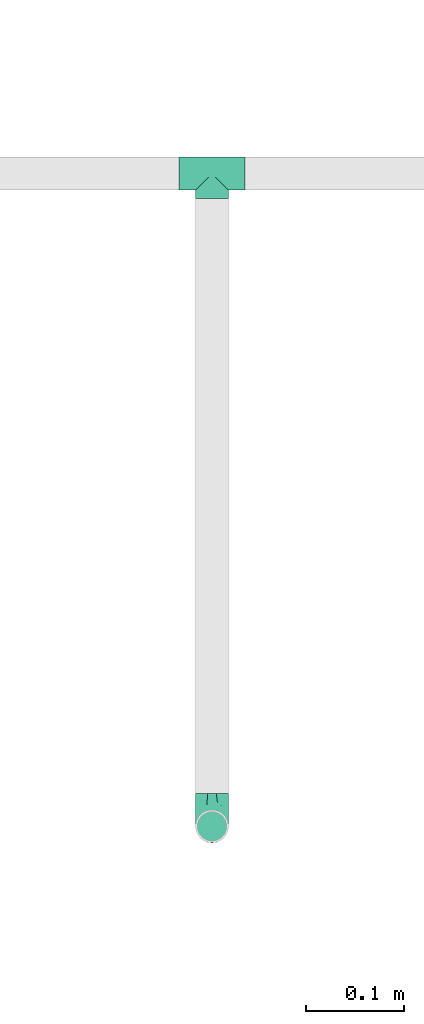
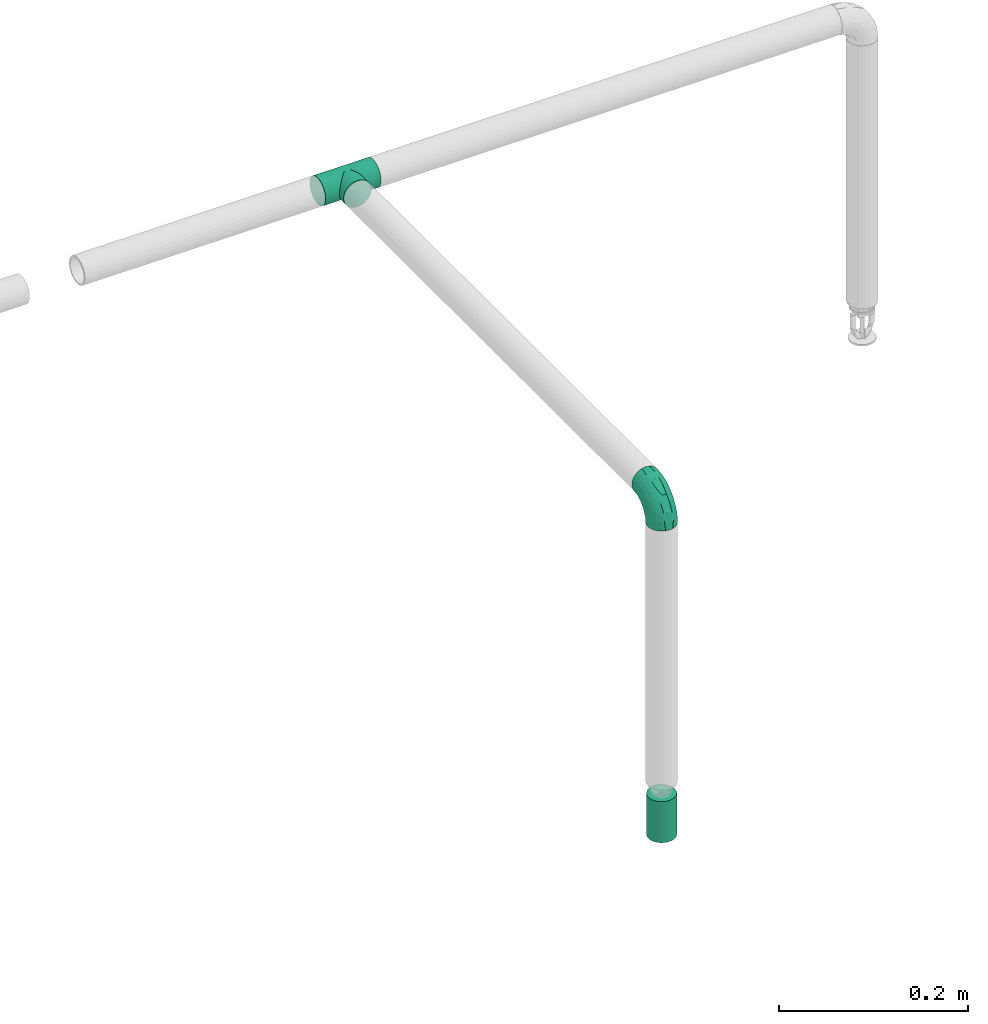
# One storey, part 8 of 17: 2 flow fittings, 1 flow terminal.
"""IFC2X3 building model written with IfcOpenShell, lengths in millimetres."""

from ifc_helpers import new_model, entity, si_unit, converted_unit, derived_unit, direction, frame, origin_with_axes, place, context, subcontext, project, spatial, open_shell, surface_model, source, transform, mapped, type_object, element, save


model = new_model("IFC2X3")

# Units and contexts
model_context = context("Model", 3, precision=0.01, world=frame((0.0, 4.29681676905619e-09, 0.0)), true_north=direction((4.01073788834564e-13, 1.0)))
plan_context = context("Plan", 3, precision=0.01, world=frame((0.0, 4.29681676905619e-09, 0.0)), true_north=direction((4.01073788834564e-13, 1.0)))
body_context = subcontext(model_context, "Body", "Model", "MODEL_VIEW")
ifc_project = project(units=[converted_unit("PLANEANGLEUNIT", "DEGREE", entity("IfcPositiveLengthMeasure", 0.0174532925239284), si_unit("PLANEANGLEUNIT", "RADIAN"), dimensions=[0, 0, 0, 0, 0, 0, 0]), si_unit("AREAUNIT", "SQUARE_METRE"), si_unit("LENGTHUNIT", "METRE", prefix="MILLI"), si_unit("MASSUNIT", "GRAM", prefix="KILO"), si_unit("POWERUNIT", "WATT"), si_unit("PRESSUREUNIT", "PASCAL", prefix="KILO"), si_unit("FORCEUNIT", "NEWTON", prefix="KILO"), si_unit("ELECTRICVOLTAGEUNIT", "VOLT"), si_unit("ELECTRICCURRENTUNIT", "AMPERE"), si_unit("THERMODYNAMICTEMPERATUREUNIT", "DEGREE_CELSIUS"), si_unit("TIMEUNIT", "SECOND"), si_unit("VOLUMEUNIT", "CUBIC_METRE"), derived_unit("LINEARVELOCITYUNIT", [(si_unit("LENGTHUNIT", "METRE"), 1), (si_unit("TIMEUNIT", "SECOND"), -1)]), derived_unit("VOLUMETRICFLOWRATEUNIT", [(si_unit("VOLUMEUNIT", "CUBIC_METRE"), 1), (si_unit("TIMEUNIT", "SECOND"), -1)]), derived_unit("THERMALTRANSMITTANCEUNIT", [(si_unit("POWERUNIT", "WATT"), 1), (si_unit("THERMODYNAMICTEMPERATUREUNIT", "KELVIN"), -1), (si_unit("AREAUNIT", "SQUARE_METRE"), -1)]), derived_unit("SOUNDPRESSUREUNIT", [(si_unit("PRESSUREUNIT", "PASCAL"), 1)])], contexts=[model_context, plan_context])

# Site, building, storey
site_placement = place(None, frame((0.0, -4.29681676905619e-09, 0.0), z_axis=(0.0, 0.0, 1.0), x_axis=(1.0, 0.0, 0.0)))
site = spatial("IfcSite", under=ifc_project, at=site_placement, CompositionType="ELEMENT")
building_placement = place(site_placement, frame((0.0, 4.29681676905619e-09, 0.0), z_axis=(0.0, 0.0, 1.0), x_axis=(1.0, 0.0, 0.0)))
building = spatial("IfcBuilding", under=site, at=building_placement, Name="mc-building", CompositionType="ELEMENT")
storey_placement = place(building_placement, frame((0.0, 0.0, 204000.0), z_axis=(0.0, 0.0, 1.0), x_axis=(1.0, 0.0, 0.0)))
storey = spatial("IfcBuildingStorey", under=building, at=storey_placement, Name="Nivå D", CompositionType="ELEMENT", Elevation=204000.0)

# Flow fittings
pipe_fitting_type_1 = type_object("IfcPipeFittingType", Name="magi_pipe_fe_tee_centric_90_NOR", PredefinedType="JUNCTION")
shared_shape_1 = source(origin_with_axes(), body_context, "Body", "SurfaceModel", [
    surface_model("IfcShellBasedSurfaceModel", [(-33.8, 4.37404, -16.32415), (-33.8, 0.0, -16.9), (-33.8, 16.32415, -4.37404), (-33.8, 8.45, -14.63583), (-33.8, 11.9501, -11.9501), (-33.8, 14.63583, -8.45), (-33.8, -16.9, 0.0), (-33.8, -11.9501, -11.9501), (-33.8, -14.63583, -8.45), (-33.8, -8.45, -14.63583), (-33.8, -4.37404, -16.32415), (-33.8, -16.32415, -4.37404), (-33.8, 14.63583, 8.45), (-33.8, 16.32415, 4.37404), (-33.8, -8.45, 14.63583), (-33.8, 8.45, 14.63583), (-33.8, 11.9501, 11.9501), (-33.8, 4.37404, 16.32415), (-33.8, 0.0, 16.9), (-33.8, -11.9501, 11.9501), (-33.8, -14.63583, 8.45), (-33.8, -16.32415, 4.37404), (-33.8, -4.37404, 16.32415), (-33.8, 16.9, 0.0), (33.8, 4.37404, -16.32415), (33.8, -16.9, 0.0), (33.8, 0.0, -16.9), (33.8, 14.63583, -8.45), (33.8, 8.45, -14.63583), (33.8, 16.32415, -4.37404), (33.8, 11.9501, -11.9501), (33.8, -16.32415, 4.37404), (33.8, -8.45, -14.63583), (33.8, -4.37404, -16.32415), (33.8, -11.9501, -11.9501), (33.8, -14.63583, -8.45), (33.8, -16.32415, -4.37404), (33.8, 16.32415, 4.37404), (33.8, 8.45, 14.63583), (33.8, 14.63583, 8.45), (33.8, 11.9501, 11.9501), (33.8, -8.45, 14.63583), (33.8, 4.37404, 16.32415), (33.8, -14.63583, 8.45), (33.8, -11.9501, 11.9501), (33.8, 0.0, 16.9), (33.8, -4.37404, 16.32415), (33.8, 16.9, 0.0), (16.28698, -16.28698, 4.51047), (16.9, -16.9, 0.0), (14.62704, -14.62704, 8.4652), (9.47213, -9.47213, 13.99602), (12.26343, -12.26343, 11.62834), (-16.9, -16.9, 0.0), (-16.28698, -16.28698, 4.51047), (-14.62704, -14.62704, 8.4652), (-12.26343, -12.26343, 11.62834), (-9.47213, -9.47213, 13.99602), (-6.42894, -6.42894, 15.62942), (6.42894, -6.42894, 15.62942), (3.24522, -3.24522, 16.58549), (0.0, 0.0, 16.9), (-3.24522, -3.24522, 16.58549), (3.24522, -3.24522, -16.58549), (0.0, 0.0, -16.9), (-3.24522, -3.24522, -16.58549), (-6.42894, -6.42894, -15.62942), (6.42894, -6.42894, -15.62942), (9.47213, -9.47213, -13.99602), (12.26343, -12.26343, -11.62834), (14.62704, -14.62704, -8.4652), (16.28698, -16.28698, -4.51047), (-9.47213, -9.47213, -13.99602), (-12.26343, -12.26343, -11.62834), (-16.28698, -16.28698, -4.51047), (-14.62704, -14.62704, -8.4652), (4.37404, -25.35, -16.32415), (-16.9, -25.35, 0.0), (0.0, -25.35, -16.9), (14.63583, -25.35, -8.45), (8.45, -25.35, -14.63583), (16.32415, -25.35, -4.37404), (11.9501, -25.35, -11.9501), (-11.9501, -25.35, -11.9501), (-8.45, -25.35, -14.63583), (-4.37404, -25.35, -16.32415), (-14.63583, -25.35, -8.45), (-16.32415, -25.35, -4.37404), (16.9, -25.35, 0.0), (8.45, -25.35, 14.63583), (16.32415, -25.35, 4.37404), (14.63583, -25.35, 8.45), (-8.45, -25.35, 14.63583), (11.9501, -25.35, 11.9501), (4.37404, -25.35, 16.32415), (-16.32415, -25.35, 4.37404), (-11.9501, -25.35, 11.9501), (-14.63583, -25.35, 8.45), (0.0, -25.35, 16.9), (-4.37404, -25.35, 16.32415)], [open_shell([[[0, 1, 2]], [[3, 0, 4]], [[0, 2, 5]], [[4, 0, 5]], [[6, 2, 1]], [[7, 8, 9]], [[1, 10, 9]], [[11, 6, 8]], [[1, 9, 8]], [[1, 8, 6]], [[6, 12, 2]], [[12, 13, 2]], [[14, 12, 6]], [[12, 14, 15]], [[16, 12, 15]], [[17, 15, 18]], [[19, 14, 20]], [[21, 20, 14]], [[22, 18, 14]], [[14, 6, 21]], [[14, 18, 15]], [[23, 2, 13]], [[24, 25, 26]], [[27, 24, 28]], [[27, 29, 24]], [[27, 28, 30]], [[31, 25, 24]], [[26, 32, 33]], [[26, 34, 32]], [[35, 25, 36]], [[35, 34, 26]], [[25, 35, 26]], [[24, 29, 31]], [[29, 37, 38]], [[38, 37, 39]], [[38, 31, 29]], [[38, 39, 40]], [[41, 38, 42]], [[43, 41, 44]], [[41, 43, 31]], [[41, 45, 46]], [[41, 31, 38]], [[42, 45, 41]], [[29, 47, 37]], [[31, 43, 48]], [[25, 31, 49]], [[49, 31, 48]], [[43, 50, 48]], [[44, 41, 51]], [[50, 43, 52]], [[51, 52, 44]], [[52, 43, 44]], [[53, 54, 21]], [[53, 21, 6]], [[21, 54, 20]], [[54, 55, 20]], [[56, 57, 19]], [[19, 20, 56]], [[19, 57, 14]], [[56, 20, 55]], [[14, 57, 58]], [[51, 41, 59]], [[60, 45, 61]], [[59, 46, 60]], [[46, 59, 41]], [[60, 46, 45]], [[61, 45, 42]], [[39, 37, 13]], [[16, 38, 40]], [[12, 40, 39]], [[42, 38, 15]], [[23, 37, 47]], [[62, 61, 18]], [[62, 22, 58]], [[22, 62, 18]], [[58, 22, 14]], [[61, 17, 18]], [[42, 17, 61]], [[15, 17, 42]], [[15, 38, 16]], [[12, 16, 40]], [[13, 12, 39]], [[37, 23, 13]], [[5, 27, 30]], [[23, 47, 29]], [[30, 28, 3]], [[27, 2, 29]], [[26, 33, 63]], [[26, 64, 24]], [[64, 26, 63]], [[28, 24, 0]], [[64, 0, 24]], [[4, 30, 3]], [[2, 27, 5]], [[5, 30, 4]], [[2, 23, 29]], [[65, 66, 10]], [[1, 0, 64]], [[1, 65, 10]], [[66, 9, 10]], [[0, 3, 28]], [[1, 64, 65]], [[63, 33, 67]], [[32, 34, 68]], [[69, 68, 34]], [[35, 70, 69]], [[69, 34, 35]], [[32, 68, 67]], [[36, 25, 49]], [[36, 71, 35]], [[71, 36, 49]], [[35, 71, 70]], [[72, 9, 66]], [[72, 7, 9]], [[7, 72, 73]], [[7, 73, 8]], [[74, 53, 11]], [[75, 74, 8]], [[74, 11, 8]], [[11, 53, 6]], [[75, 8, 73]], [[32, 67, 33]], [[76, 77, 78]], [[79, 76, 80]], [[79, 81, 76]], [[79, 80, 82]], [[77, 76, 81]], [[78, 83, 84]], [[84, 85, 78]], [[86, 77, 87]], [[83, 78, 86]], [[77, 86, 78]], [[81, 88, 77]], [[89, 88, 90]], [[89, 90, 91]], [[92, 77, 89]], [[89, 91, 93]], [[92, 89, 94]], [[95, 96, 97]], [[96, 95, 92]], [[92, 98, 99]], [[95, 77, 92]], [[94, 98, 92]], [[89, 77, 88]], [[77, 95, 53]], [[54, 53, 95]], [[97, 96, 56]], [[96, 92, 57]], [[95, 97, 54]], [[58, 92, 99]], [[55, 54, 97]], [[56, 55, 97]], [[58, 57, 92]], [[98, 61, 62]], [[58, 99, 62]], [[56, 96, 57]], [[62, 99, 98]], [[94, 60, 98]], [[89, 59, 94]], [[91, 90, 48]], [[52, 93, 91]], [[93, 51, 89]], [[49, 90, 88]], [[59, 60, 94]], [[51, 59, 89]], [[49, 48, 90]], [[50, 52, 91]], [[48, 50, 91]], [[51, 93, 52]], [[98, 60, 61]], [[88, 81, 49]], [[71, 49, 81]], [[79, 82, 69]], [[82, 80, 68]], [[81, 79, 71]], [[67, 80, 76]], [[70, 71, 79]], [[69, 70, 79]], [[67, 68, 80]], [[78, 64, 63]], [[67, 76, 63]], [[69, 82, 68]], [[63, 76, 78]], [[85, 65, 78]], [[84, 66, 85]], [[86, 87, 74]], [[86, 73, 83]], [[72, 84, 83]], [[53, 87, 77]], [[66, 65, 85]], [[72, 66, 84]], [[53, 74, 87]], [[75, 73, 86]], [[74, 75, 86]], [[72, 83, 73]], [[78, 65, 64]]])]),
])
flow_fitting_1_placement = place(storey_placement, frame((597774.5, 402317.53152, 2780.0), z_axis=(0.0, 0.0, 1.0), x_axis=(1.0, 0.0, 0.0)))
element("IfcFlowFitting", 1, at=flow_fitting_1_placement, inside=storey, type_object=pipe_fitting_type_1, Name="magi_pipe_fe_tee_centric_90_NOR", context=body_context, shape_type="MappedRepresentation", body=[
    mapped(shared_shape_1, transform((0.0, 0.0, 0.0), scale=1.0)),
])
pipe_fitting_type_2 = type_object("IfcPipeFittingType", Name="magi_pipe_fe_elbow_short_001", PredefinedType="BEND")
shared_shape_2 = source(origin_with_axes(), body_context, "Body", "SurfaceModel", [
    surface_model("IfcShellBasedSurfaceModel", [(-33.8, 8.45, -14.63583), (-33.8, 4.37404, -16.32415), (-33.8, 11.9501, -11.9501), (-33.8, -11.9501, -11.9501), (-33.8, -14.63583, -8.45), (-33.8, -8.45, -14.63583), (-33.8, 0.0, -16.9), (-33.8, -4.37404, -16.32415), (-33.8, -4.37404, 16.32415), (-33.8, 0.0, 16.9), (-33.8, -8.45, 14.63583), (-33.8, 16.32415, -4.37404), (-33.8, 14.63583, -8.45), (-33.8, -16.32415, -4.37404), (-33.8, -16.9, 0.0), (-33.8, -16.32415, 4.37404), (-33.8, 11.9501, 11.9501), (-33.8, 14.63583, 8.45), (-33.8, 16.32415, 4.37404), (-33.8, 4.37404, 16.32415), (-33.8, 8.45, 14.63583), (-33.8, -14.63583, 8.45), (-33.8, -11.9501, 11.9501), (-33.8, 16.9, 0.0), (-11.9501, 33.8, -11.9501), (0.0, 33.8, -16.9), (-4.37404, 33.8, -16.32415), (-8.45, 33.8, -14.63583), (-14.63583, 33.8, -8.45), (-16.32415, 33.8, -4.37404), (14.63583, 33.8, -8.45), (8.45, 33.8, 14.63583), (16.32415, 33.8, -4.37404), (8.45, 33.8, -14.63583), (11.9501, 33.8, -11.9501), (4.37404, 33.8, -16.32415), (16.32415, 33.8, 4.37404), (16.9, 33.8, 0.0), (-11.9501, 33.8, 11.9501), (-16.32415, 33.8, 4.37404), (-14.63583, 33.8, 8.45), (-8.45, 33.8, 14.63583), (-4.37404, 33.8, 16.32415), (11.9501, 33.8, 11.9501), (14.63583, 33.8, 8.45), (0.0, 33.8, 16.9), (4.37404, 33.8, 16.32415), (-16.9, 33.8, 0.0), (-24.79389, -13.12945, 9.48721), (-22.19287, -9.75018, 12.59315), (-24.09897, -14.97035, 0.0), (-14.93934, -10.76256, 8.5297), (-22.46095, -14.75051, 5.27077), (14.75051, 22.46094, 5.27077), (11.9251, 13.23888, 4.33236), (13.04069, 14.39795, 0.0), (7.71387, 13.68847, 11.55891), (9.75018, 22.19287, 12.59315), (4.10169, 13.0571, 14.04018), (-24.84007, -6.39063, 15.2048), (-25.81779, -2.23879, 16.61097), (-23.66549, 2.59054, 16.87119), (-26.50418, 14.06512, 11.08152), (-24.21253, 17.66365, 7.72657), (-29.58514, 15.86957, 7.00283), (-6.17382, -7.5455, 0.0), (-13.23888, -11.9251, 4.33236), (-14.39795, -13.04069, 0.0), (-17.81434, 18.87373, 11.97104), (-6.30846, 29.15138, 15.82987), (-2.31622, 25.28002, 16.85849), (-29.23923, 10.23435, 13.77053), (-1.45439, -2.85688, 7.61475), (-0.28326, 0.34872, 10.09509), (-5.74484, -4.04709, 10.4122), (-4.41137, 11.31918, 16.59407), (-8.39727, 3.10034, 15.7812), (-1.72649, 9.1306, 15.53089), (-17.39909, 24.75344, 7.64977), (-26.19233, 20.0512, 0.0), (-28.14518, 17.29657, 4.25857), (-26.05147, 6.6281, 15.96447), (-5.87354, 16.61944, 16.86968), (-12.51807, 12.51807, 16.48937), (-10.06312, 7.38516, 16.81295), (-3.01882, 3.01882, 13.81718), (-13.0571, -4.10169, 14.04018), (-16.82553, -0.15166, 16.38038), (10.76256, 14.93934, 8.5297), (13.12945, 24.79389, 9.48721), (6.39063, 24.84007, 15.2048), (2.23879, 25.81779, 16.61097), (-13.68847, -7.71387, 11.55891), (14.97035, 24.09897, 0.0), (-7.30894, 22.89991, 16.09489), (-10.67958, 26.17414, 14.008), (-12.78295, 18.26924, 15.06066), (-13.88562, 22.45231, 12.93244), (-18.04944, 15.16501, 14.04434), (-23.11658, 20.08178, 4.02986), (-21.84989, 21.84989, 0.0), (-18.55817, 25.48277, 3.93065), (-13.95142, 26.94732, 11.03289), (-18.57098, 7.23906, 16.59756), (-16.58335, 4.14122, 16.89279), (-17.96666, 11.46709, 15.63151), (-9.84453, 17.54304, 16.18938), (0.15166, 16.82553, 16.38038), (-23.27207, 11.47201, 14.23154), (3.84842, 5.86994, 10.70473), (-8.0212, -7.54413, 7.93275), (1.00345, -2.19508, 4.57414), (5.13203, 3.01004, 5.90201), (5.24161, 1.7543, 2.53265), (8.70457, 7.04947, 3.99182), (-20.0512, 26.19233, 0.0), (8.4852, 8.76699, 7.09296), (-4.55488, -6.72064, 4.90681), (2.05031, -2.05031, 0.0), (7.5455, 6.17382, 0.0), (-26.75399, 2.1369, -16.845), (-14.61995, 24.73803, -11.27736), (-28.45274, -13.45335, -9.81895), (-26.00469, 6.63555, -15.96645), (-23.06726, 20.04573, -4.26202), (-13.80647, -4.26506, -14.17873), (-14.67501, -0.21081, -16.07388), (-6.7902, -0.2828, -13.8478), (-24.53586, 11.08096, -14.13417), (-26.72048, 14.00837, -11.05776), (10.0967, 24.44989, -12.75976), (5.83237, 21.40218, -15.03047), (6.66249, 28.54238, -15.38093), (-20.38182, 15.48705, -12.74596), (12.53268, 21.23441, -9.15363), (12.54494, 15.67504, -5.54878), (9.7522, 12.89279, -8.66343), (-15.65186, 19.64213, -13.01327), (-12.03528, 20.66498, -14.67665), (-15.61907, 15.61906, -14.83879), (-25.56551, -15.26206, 0.0), (-24.65452, -15.12934, -5.50955), (13.45335, 28.45274, -9.81895), (15.12934, 24.65452, -5.50955), (-7.35442, -8.31014, -5.65563), (-15.67504, -12.54494, -5.54878), (-24.44989, -10.0967, -12.75976), (0.16522, 0.41303, -9.71728), (-5.70658, -5.33066, -8.89288), (-5.13869, -2.37198, -11.53565), (-21.23441, -12.53268, -9.15363), (0.71146, 7.93863, -14.09382), (0.21081, 14.67501, -16.07388), (3.49291, 14.42772, -14.76381), (-24.89911, -2.13088, -16.591), (-28.54238, -6.66249, -15.38093), (-18.44386, -7.71663, -13.26957), (2.13088, 24.89911, -16.591), (-28.64342, 17.44413, -2.89318), (1.70017, -1.28722, -5.09504), (-16.57067, 26.81947, -7.36596), (-17.69055, 27.4263, -3.76405), (-12.89279, -9.7522, -8.66343), (-5.96611, 5.96611, -15.95814), (-20.53709, 20.09345, -8.28985), (-2.1369, 26.75399, -16.845), (-6.89872, 24.58781, -16.02578), (-10.60739, 26.53157, -13.98044), (-21.40218, -5.83237, -15.03047), (2.93192, 5.89627, -11.55917), (6.89393, 12.61842, -11.82233), (5.58056, 5.95325, -8.79455), (-3.99512, 18.61798, -16.89635), (8.31014, 7.35442, -5.65563), (-9.1383, 9.86148, -16.89041), (-9.99983, 16.02119, -16.39699), (-16.68576, 9.78031, -16.34199), (-27.01915, 16.61158, -7.12979), (15.26206, 25.56551, 0.0), (-18.61798, 3.99512, -16.89635), (-19.37495, 27.82495, 0.0), (-12.61842, -6.89393, -11.82233), (-18.84705, 19.14018, -10.96545)], [open_shell([[[0, 1, 2]], [[3, 4, 5]], [[6, 7, 5]], [[8, 9, 10]], [[1, 6, 2]], [[11, 12, 2]], [[4, 2, 6]], [[2, 13, 10]], [[5, 4, 6]], [[2, 4, 13]], [[14, 15, 13]], [[11, 2, 16]], [[11, 17, 18]], [[11, 16, 17]], [[19, 20, 16]], [[16, 2, 10]], [[19, 16, 10]], [[21, 22, 15]], [[22, 13, 15]], [[22, 10, 13]], [[10, 9, 19]], [[11, 18, 23]], [[24, 25, 26]], [[24, 26, 27]], [[24, 28, 29]], [[25, 24, 30]], [[31, 32, 24]], [[33, 30, 34]], [[33, 35, 25]], [[25, 30, 33]], [[32, 30, 24]], [[32, 36, 37]], [[38, 24, 29]], [[39, 40, 29]], [[40, 38, 29]], [[38, 41, 42]], [[38, 31, 24]], [[31, 38, 42]], [[36, 43, 44]], [[36, 32, 43]], [[31, 45, 46]], [[32, 31, 43]], [[42, 45, 31]], [[39, 29, 47]], [[22, 48, 49]], [[15, 14, 50]], [[51, 48, 52]], [[53, 54, 55]], [[48, 22, 21]], [[15, 52, 21]], [[56, 57, 58]], [[49, 10, 22]], [[49, 59, 10]], [[9, 60, 61]], [[62, 63, 64]], [[65, 66, 67]], [[57, 43, 31]], [[62, 68, 63]], [[42, 69, 70]], [[20, 71, 16]], [[8, 60, 9]], [[72, 73, 74]], [[75, 76, 77]], [[16, 62, 17]], [[40, 39, 78]], [[79, 23, 80]], [[64, 18, 17]], [[9, 61, 19]], [[19, 81, 20]], [[82, 83, 84]], [[74, 85, 86]], [[59, 86, 87]], [[88, 89, 57]], [[90, 31, 46]], [[44, 53, 36]], [[46, 45, 91]], [[54, 53, 88]], [[44, 89, 53]], [[92, 86, 49]], [[89, 44, 43]], [[10, 59, 8]], [[53, 55, 93]], [[93, 36, 53]], [[66, 52, 67]], [[94, 82, 70]], [[95, 96, 94]], [[97, 98, 96]], [[79, 99, 100]], [[41, 38, 95]], [[101, 100, 99]], [[68, 78, 63]], [[42, 41, 69]], [[23, 18, 80]], [[95, 94, 69]], [[78, 101, 99]], [[38, 102, 95]], [[70, 45, 42]], [[97, 95, 102]], [[15, 50, 52]], [[90, 57, 31]], [[57, 90, 58]], [[81, 19, 61]], [[103, 104, 84]], [[105, 81, 103]], [[38, 40, 102]], [[106, 96, 83]], [[94, 106, 82]], [[91, 70, 107]], [[71, 62, 16]], [[62, 108, 98]], [[86, 59, 49]], [[67, 52, 50]], [[60, 59, 87]], [[92, 49, 51]], [[86, 85, 76]], [[91, 90, 46]], [[37, 36, 93]], [[107, 77, 58]], [[107, 58, 90]], [[58, 85, 109]], [[110, 74, 92]], [[72, 74, 110]], [[66, 51, 52]], [[72, 111, 112]], [[113, 114, 112]], [[56, 88, 57]], [[52, 48, 21]], [[49, 48, 51]], [[57, 89, 43]], [[53, 89, 88]], [[103, 81, 61]], [[71, 81, 108]], [[18, 64, 80]], [[63, 78, 99]], [[47, 115, 101]], [[101, 115, 100]], [[40, 78, 102]], [[68, 102, 78]], [[97, 96, 95]], [[105, 98, 108]], [[103, 84, 83]], [[107, 70, 82]], [[76, 84, 87]], [[82, 84, 75]], [[70, 91, 45]], [[90, 91, 107]], [[59, 60, 8]], [[61, 60, 87]], [[73, 85, 74]], [[109, 112, 116]], [[103, 61, 104]], [[105, 103, 83]], [[96, 105, 83]], [[81, 105, 108]], [[96, 98, 105]], [[62, 98, 68]], [[61, 87, 104]], [[87, 84, 104]], [[86, 76, 87]], [[77, 76, 85]], [[58, 77, 85]], [[75, 77, 107]], [[82, 75, 107]], [[76, 75, 84]], [[81, 71, 20]], [[62, 71, 108]], [[95, 69, 41]], [[70, 69, 94]], [[62, 64, 17]], [[80, 63, 99]], [[63, 80, 64]], [[80, 99, 79]], [[66, 65, 117]], [[110, 66, 117]], [[112, 114, 116]], [[118, 117, 65]], [[110, 92, 51]], [[112, 111, 113]], [[119, 55, 54]], [[74, 86, 92]], [[58, 109, 56]], [[116, 56, 109]], [[66, 110, 51]], [[72, 110, 117]], [[111, 72, 117]], [[73, 112, 109]], [[117, 118, 111]], [[113, 111, 118]], [[118, 119, 113]], [[114, 119, 54]], [[119, 114, 113]], [[116, 54, 88]], [[54, 116, 114]], [[116, 88, 56]], [[112, 73, 72]], [[85, 73, 109]], [[78, 39, 101]], [[47, 101, 39]], [[102, 68, 97]], [[97, 68, 98]], [[82, 106, 83]], [[94, 96, 106]], [[1, 120, 6]], [[28, 24, 121]], [[3, 122, 4]], [[0, 123, 1]], [[100, 124, 79]], [[125, 126, 127]], [[128, 2, 129]], [[130, 131, 132]], [[128, 129, 133]], [[134, 135, 136]], [[137, 138, 139]], [[128, 0, 2]], [[67, 140, 141]], [[134, 142, 143]], [[141, 13, 4]], [[144, 65, 145]], [[146, 3, 5]], [[147, 148, 149]], [[145, 141, 150]], [[151, 152, 153]], [[154, 7, 6]], [[5, 155, 146]], [[150, 146, 156]], [[155, 5, 7]], [[143, 135, 134]], [[35, 157, 25]], [[23, 79, 158]], [[148, 159, 144]], [[160, 161, 29]], [[145, 162, 144]], [[163, 152, 151]], [[29, 28, 160]], [[121, 164, 160]], [[33, 34, 130]], [[25, 165, 26]], [[26, 165, 166]], [[142, 34, 30]], [[24, 27, 167]], [[124, 161, 164]], [[157, 35, 132]], [[155, 154, 168]], [[123, 0, 128]], [[169, 170, 171]], [[172, 157, 152]], [[26, 166, 27]], [[132, 35, 33]], [[142, 130, 34]], [[168, 154, 126]], [[136, 135, 173]], [[133, 137, 139]], [[2, 12, 129]], [[170, 131, 130]], [[30, 32, 143]], [[172, 174, 175]], [[176, 123, 128]], [[158, 177, 11]], [[135, 55, 119]], [[167, 27, 166]], [[175, 166, 172]], [[137, 167, 138]], [[122, 141, 4]], [[140, 14, 13]], [[32, 37, 178]], [[170, 130, 134]], [[152, 157, 131]], [[165, 157, 172]], [[153, 170, 151]], [[152, 163, 174]], [[168, 125, 156]], [[122, 146, 150]], [[120, 154, 6]], [[179, 174, 126]], [[179, 126, 154]], [[126, 163, 127]], [[162, 145, 150]], [[140, 13, 141]], [[32, 178, 143]], [[55, 143, 178]], [[177, 129, 12]], [[128, 133, 139]], [[176, 128, 139]], [[120, 123, 179]], [[121, 160, 28]], [[161, 100, 180]], [[166, 175, 138]], [[121, 24, 167]], [[161, 47, 29]], [[79, 124, 158]], [[124, 164, 177]], [[161, 124, 100]], [[136, 171, 170]], [[127, 163, 151]], [[147, 171, 159]], [[148, 144, 162]], [[127, 151, 169]], [[127, 181, 125]], [[129, 177, 164]], [[12, 11, 177]], [[159, 65, 144]], [[67, 141, 145]], [[143, 55, 135]], [[135, 119, 173]], [[123, 120, 1]], [[154, 120, 179]], [[157, 165, 25]], [[166, 165, 172]], [[172, 152, 174]], [[176, 139, 175]], [[126, 174, 163]], [[176, 174, 179]], [[174, 176, 175]], [[123, 176, 179]], [[150, 181, 162]], [[127, 149, 181]], [[181, 148, 162]], [[159, 148, 147]], [[171, 136, 173]], [[170, 134, 136]], [[159, 171, 173]], [[171, 147, 169]], [[169, 147, 149]], [[151, 170, 169]], [[164, 182, 129]], [[182, 121, 137]], [[181, 149, 148]], [[169, 149, 127]], [[182, 137, 133]], [[167, 137, 121]], [[166, 138, 167]], [[175, 139, 138]], [[129, 182, 133]], [[121, 182, 164]], [[161, 160, 164]], [[47, 161, 180]], [[177, 158, 124]], [[23, 158, 11]], [[130, 132, 33]], [[157, 132, 131]], [[143, 142, 30]], [[130, 142, 134]], [[154, 155, 7]], [[146, 155, 168]], [[146, 122, 3]], [[141, 122, 150]], [[152, 131, 153]], [[159, 119, 118]], [[67, 145, 65]], [[170, 153, 131]], [[119, 159, 173]], [[159, 118, 65]], [[156, 125, 181]], [[126, 125, 168]], [[150, 156, 181]], [[168, 156, 146]]])]),
])
flow_fitting_2_placement = place(storey_placement, frame((597774.5, 401650.01942, 2780.0), z_axis=(-1.0, 0.0, 0.0), x_axis=(0.0, 0.0, 1.0)))
element("IfcFlowFitting", 2, at=flow_fitting_2_placement, inside=storey, type_object=pipe_fitting_type_2, Name="magi_pipe_fe_elbow_short_001", context=body_context, shape_type="MappedRepresentation", body=[
    mapped(shared_shape_2, transform((0.0, 0.0, 0.0), scale=1.0)),
])

# Flow terminal
fire_suppression_terminal_type = type_object("IfcFireSuppressionTerminalType", Name="SP-15-K80-68DGR-STD", PredefinedType="NOTDEFINED")
shared_shape_3 = source(origin_with_axes(), body_context, "Body", "SurfaceModel", [
    surface_model("IfcShellBasedSurfaceModel", [(4.1411, -15.45481, 53.0), (8.0, -13.85641, 53.0), (11.31371, -11.31371, 53.0), (-8.0, -13.85641, 53.0), (15.45481, -4.1411, 53.0), (16.0, 0.0, 53.0), (13.85641, -8.0, 53.0), (0.0, -16.0, 53.0), (-4.1411, -15.45481, 53.0), (-13.85641, -8.0, 53.0), (-11.31371, -11.31371, 53.0), (-15.45481, -4.1411, 53.0), (15.45481, 4.1411, 53.0), (13.85641, 8.0, 53.0), (11.31371, 11.31371, 53.0), (-4.1411, 15.45481, 53.0), (8.0, 13.85641, 53.0), (4.1411, 15.45481, 53.0), (0.0, 16.0, 53.0), (-13.85641, 8.0, 53.0), (-15.45481, 4.1411, 53.0), (-16.0, 0.0, 53.0), (-11.31371, 11.31371, 53.0), (-8.0, 13.85641, 53.0), (0.0, 16.0, 0.0), (4.1411, 15.45481, 0.0), (8.0, 13.85641, 0.0), (-4.1411, 15.45481, 0.0), (11.31371, 11.31371, 0.0), (13.85641, 8.0, 0.0), (15.45481, 4.1411, 0.0), (-15.45481, -4.1411, 0.0), (-11.31371, 11.31371, 0.0), (-8.0, 13.85641, 0.0), (-13.85641, 8.0, 0.0), (-15.45481, 4.1411, 0.0), (-16.0, 0.0, 0.0), (4.1411, -15.45481, 0.0), (16.0, 0.0, 0.0), (15.45481, -4.1411, 0.0), (13.85641, -8.0, 0.0), (11.31371, -11.31371, 0.0), (8.0, -13.85641, 0.0), (-8.0, -13.85641, 0.0), (-13.85641, -8.0, 0.0), (-11.31371, -11.31371, 0.0), (0.0, -16.0, 0.0), (-4.1411, -15.45481, 0.0)], [open_shell([[[0, 1, 2]], [[3, 0, 2]], [[4, 5, 2]], [[4, 2, 6]], [[3, 2, 5]], [[7, 3, 8]], [[7, 0, 3]], [[3, 9, 10]], [[9, 3, 11]], [[5, 11, 3]], [[5, 12, 11]], [[12, 13, 14]], [[15, 12, 14]], [[16, 17, 18]], [[14, 16, 15]], [[18, 15, 16]], [[11, 19, 20]], [[21, 11, 20]], [[22, 15, 23]], [[15, 22, 19]], [[19, 11, 15]], [[11, 12, 15]], [[24, 25, 26]], [[27, 24, 26]], [[28, 29, 30]], [[27, 26, 28]], [[27, 28, 31]], [[27, 32, 33]], [[32, 27, 34]], [[34, 31, 35]], [[31, 34, 27]], [[35, 31, 36]], [[28, 30, 31]], [[37, 38, 39]], [[37, 39, 40]], [[41, 42, 37]], [[41, 37, 40]], [[38, 37, 43]], [[44, 43, 45]], [[43, 44, 31]], [[43, 46, 47]], [[43, 31, 38]], [[37, 46, 43]], [[38, 31, 30]], [[11, 31, 44]], [[45, 9, 44]], [[3, 43, 47]], [[45, 43, 10]], [[8, 47, 46]], [[31, 21, 36]], [[31, 11, 21]], [[44, 9, 11]], [[45, 10, 9]], [[3, 10, 43]], [[47, 8, 3]], [[46, 7, 8]], [[0, 37, 42]], [[41, 1, 42]], [[6, 40, 39]], [[41, 40, 2]], [[4, 39, 38]], [[37, 0, 7]], [[42, 1, 0]], [[41, 2, 1]], [[40, 6, 2]], [[4, 6, 39]], [[38, 5, 4]], [[37, 7, 46]], [[12, 38, 30]], [[13, 30, 29]], [[16, 26, 25]], [[17, 25, 24]], [[30, 13, 12]], [[12, 5, 38]], [[28, 14, 13]], [[28, 26, 14]], [[14, 26, 16]], [[25, 17, 16]], [[28, 13, 29]], [[24, 18, 17]], [[15, 27, 33]], [[32, 23, 33]], [[19, 34, 35]], [[32, 34, 22]], [[20, 35, 36]], [[27, 15, 18]], [[33, 23, 15]], [[32, 22, 23]], [[34, 19, 22]], [[20, 19, 35]], [[36, 21, 20]], [[27, 18, 24]]])]),
])
flow_terminal_placement = place(storey_placement, frame((597774.5, 401650.01942, 2396.95199999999), z_axis=(0.0, 0.0, -1.0), x_axis=(1.0, 0.0, 0.0)))
element("IfcFlowTerminal", 3, at=flow_terminal_placement, inside=storey, type_object=fire_suppression_terminal_type, Name="SP-15-K80-68DGR-STD", context=body_context, shape_type="MappedRepresentation", body=[
    mapped(shared_shape_3, transform((0.0, 0.0, 0.0), scale=1.0)),
])

save(model, "model.ifc")
